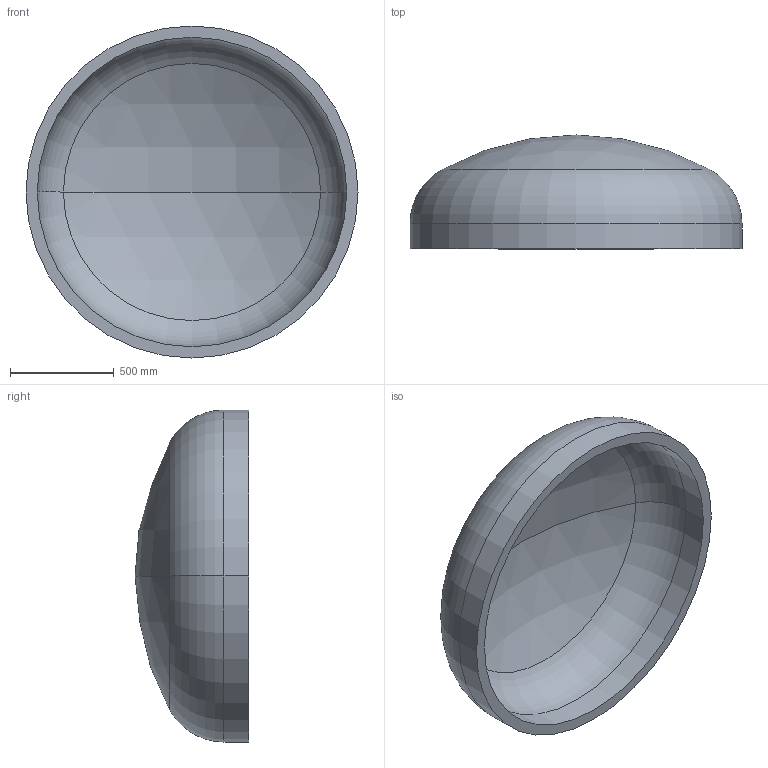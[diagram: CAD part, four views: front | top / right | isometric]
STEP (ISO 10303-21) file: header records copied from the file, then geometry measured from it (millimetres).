
FILE_DESCRIPTION (( 'STEP AP203' ), '1' );
FILE_NAME ('DIN 28013 Korbbogenform_-_Boden DIN 28013 - 1600 x 120 - I - s=54.step', '2016-07-01T11:20:37', ( '' ), ( '' ), 'SwSTEP 2.0', 'SolidWorks 2013', '' );
FILE_SCHEMA (( 'CONFIG_CONTROL_DESIGN' ));
Length unit declared in the file: millimetre
Products named in the file (1): DIN 28013 Korbbogenform_-_Boden DIN 28013 - 1600 x 120 - I - s=54
Bounding box: 1600 x 548.34 x 1600 mm (x, y, z)
Volume: 175213922.4 mm3; surface area: 6757782.7 mm2
Topology: 1 solids, 1 shells, 13 faces, 24 edges, 14 vertices
Faces by surface type: torus 4, cylinder 4, sphere 4, plane 1
Entity records: 407 total; most frequent: DIRECTION 72, CARTESIAN_POINT 52, ORIENTED_EDGE 48, AXIS2_PLACEMENT_3D 34, EDGE_CURVE 24, CIRCLE 20, VERTEX_POINT 14, EDGE_LOOP 14
